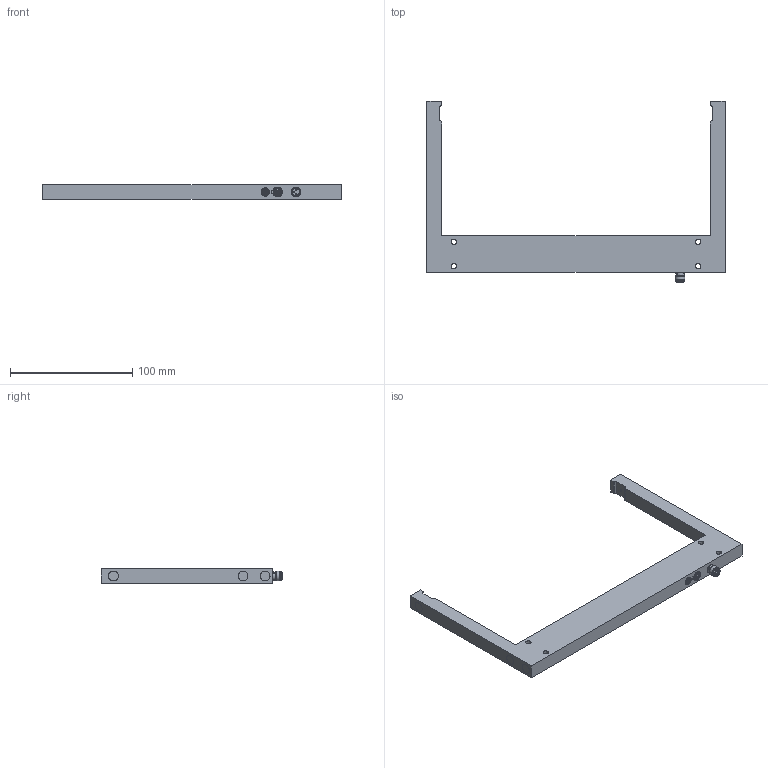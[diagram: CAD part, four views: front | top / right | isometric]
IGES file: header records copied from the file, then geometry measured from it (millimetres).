
Global section: file name: H:\lem\3DCAD_GS04B_x_1_220_M8_3.igs; native system: NX V11.0; preprocessor: SIEMENS PLM Software NX 11.0; date: 20210426.112259; units: millimetre
Bounding box: 244 x 148.5 x 12 mm (x, y, z)
Surface area: 33698.8 mm2 (no closed solid volume)
Topology: 0 solids, 0 shells, 193 faces, 1542 edges, 1530 vertices
Faces by surface type: bspline 193
